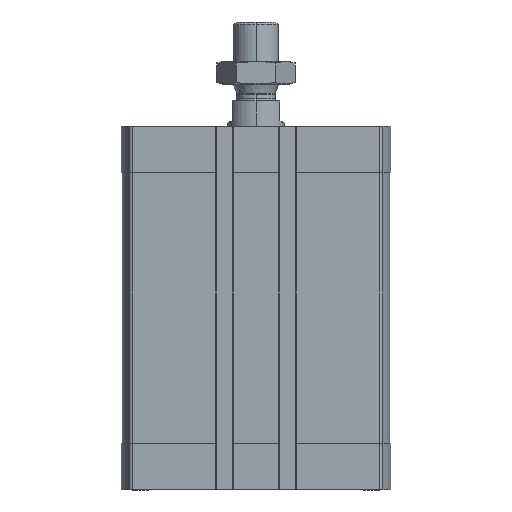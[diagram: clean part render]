
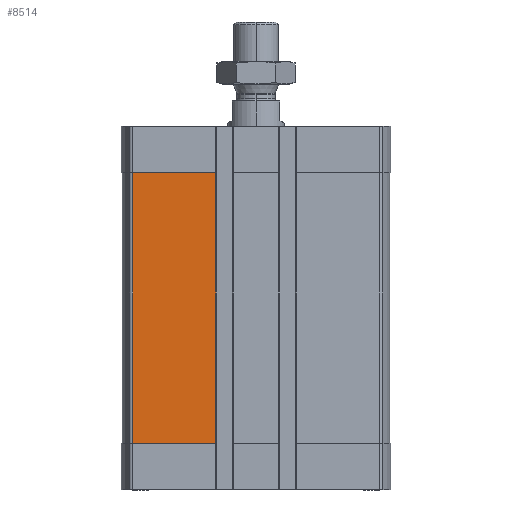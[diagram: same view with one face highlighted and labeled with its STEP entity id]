
A CAD part, left-side view. The second image highlights one B-rep face of the part: STEP entity #8514.
In plain terms, the highlighted planar face has unit normal (-1, 0, 0).
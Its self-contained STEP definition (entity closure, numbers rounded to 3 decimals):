
#356 = PLANE ( 'NONE',  #15192 ) ;
#826 = CARTESIAN_POINT ( 'NONE',  ( -47.5, 43.743, -112.5 ) ) ;
#938 = DIRECTION ( 'NONE',  ( -1., 0., 0. ) ) ;
#998 = VECTOR ( 'NONE', #6216, 1000. ) ;
#1334 = DIRECTION ( 'NONE',  ( 0., 0., 1. ) ) ;
#1362 = EDGE_CURVE ( 'NONE', #14276, #5392, #6657, .T. ) ;
#2100 = ORIENTED_EDGE ( 'NONE', *, *, #9629, .T. ) ;
#2142 = CARTESIAN_POINT ( 'NONE',  ( -47.5, 43.743, -112.5 ) ) ;
#2446 = VECTOR ( 'NONE', #15324, 1000. ) ;
#3364 = CARTESIAN_POINT ( 'NONE',  ( -47.5, 14.3, -112.5 ) ) ;
#3986 = VECTOR ( 'NONE', #5322, 1000. ) ;
#4056 = FACE_OUTER_BOUND ( 'NONE', #14441, .T. ) ;
#4379 = LINE ( 'NONE', #2142, #3986 ) ;
#4790 = LINE ( 'NONE', #6585, #998 ) ;
#5322 = DIRECTION ( 'NONE',  ( 0., 0., -1. ) ) ;
#5372 = VERTEX_POINT ( 'NONE', #12443 ) ;
#5392 = VERTEX_POINT ( 'NONE', #14438 ) ;
#5807 = LINE ( 'NONE', #3364, #2446 ) ;
#6216 = DIRECTION ( 'NONE',  ( 0., -1., 0. ) ) ;
#6228 = CARTESIAN_POINT ( 'NONE',  ( -47.5, 43.743, -112.5 ) ) ;
#6495 = VECTOR ( 'NONE', #8622, 1000. ) ;
#6585 = CARTESIAN_POINT ( 'NONE',  ( -47.5, 43.743, -112.5 ) ) ;
#6657 = LINE ( 'NONE', #9373, #6495 ) ;
#7112 = ORIENTED_EDGE ( 'NONE', *, *, #1362, .T. ) ;
#7137 = CARTESIAN_POINT ( 'NONE',  ( -47.5, 14.3, -16.5 ) ) ;
#8082 = ORIENTED_EDGE ( 'NONE', *, *, #10968, .T. ) ;
#8514 = ADVANCED_FACE ( 'NONE', ( #4056 ), #356, .T. ) ;
#8622 = DIRECTION ( 'NONE',  ( 0., 1., 0. ) ) ;
#8811 = ORIENTED_EDGE ( 'NONE', *, *, #10423, .T. ) ;
#9373 = CARTESIAN_POINT ( 'NONE',  ( -47.5, 0., -16.5 ) ) ;
#9629 = EDGE_CURVE ( 'NONE', #5372, #14276, #5807, .T. ) ;
#10423 = EDGE_CURVE ( 'NONE', #13850, #5372, #4790, .T. ) ;
#10968 = EDGE_CURVE ( 'NONE', #5392, #13850, #4379, .T. ) ;
#12443 = CARTESIAN_POINT ( 'NONE',  ( -47.5, 14.3, -112.5 ) ) ;
#13850 = VERTEX_POINT ( 'NONE', #6228 ) ;
#14276 = VERTEX_POINT ( 'NONE', #7137 ) ;
#14438 = CARTESIAN_POINT ( 'NONE',  ( -47.5, 43.743, -16.5 ) ) ;
#14441 = EDGE_LOOP ( 'NONE', ( #8811, #2100, #7112, #8082 ) ) ;
#15192 = AXIS2_PLACEMENT_3D ( 'NONE', #826, #938, #1334 ) ;
#15324 = DIRECTION ( 'NONE',  ( 0., 0., 1. ) ) ;
